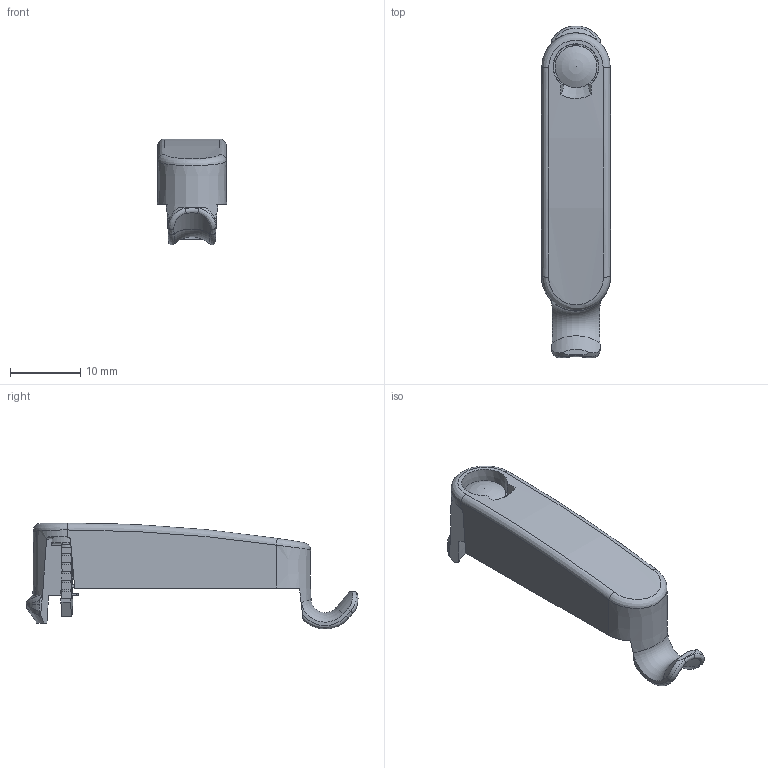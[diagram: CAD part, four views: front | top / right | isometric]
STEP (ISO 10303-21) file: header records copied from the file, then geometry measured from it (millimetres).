
FILE_DESCRIPTION(/* description */ (''),/* implementation_level */ '2;1');
FILE_NAME(/* name */ 'C:\Vault_local\Designs\Stock\3D pour clients\préparations\capteur fenetre 2011\PW520000.stp',/* time_stamp */ '2021-04-06T11:56:46+02:00',/* author */ ('fbros'),/* organization */ (''),/* preprocessor_version */ 'ST-DEVELOPER v17',/* originating_system */ 'Autodesk Inventor 2018',/* authorisation */ '');
FILE_SCHEMA (('AUTOMOTIVE_DESIGN { 1 0 10303 214 3 1 1 }'));
Length unit declared in the file: millimetre
Products named in the file (1): PW520000
Bounding box: 9.9 x 47.39 x 15.11 mm (x, y, z)
Volume: 2856.7 mm3; surface area: 2332.6 mm2
Topology: 1 solids, 2 shells, 264 faces, 774 edges, 509 vertices
Faces by surface type: plane 172, cylinder 53, cone 19, bspline 14, torus 5, sphere 1
Full cylindrical faces by diameter (mm): 5 x1, 6 x1
Entity records: 11625 total; most frequent: CARTESIAN_POINT 4290, ORIENTED_EDGE 1546, DIRECTION 1384, EDGE_CURVE 773, VERTEX_POINT 509, LINE 474, VECTOR 474, AXIS2_PLACEMENT_3D 455
